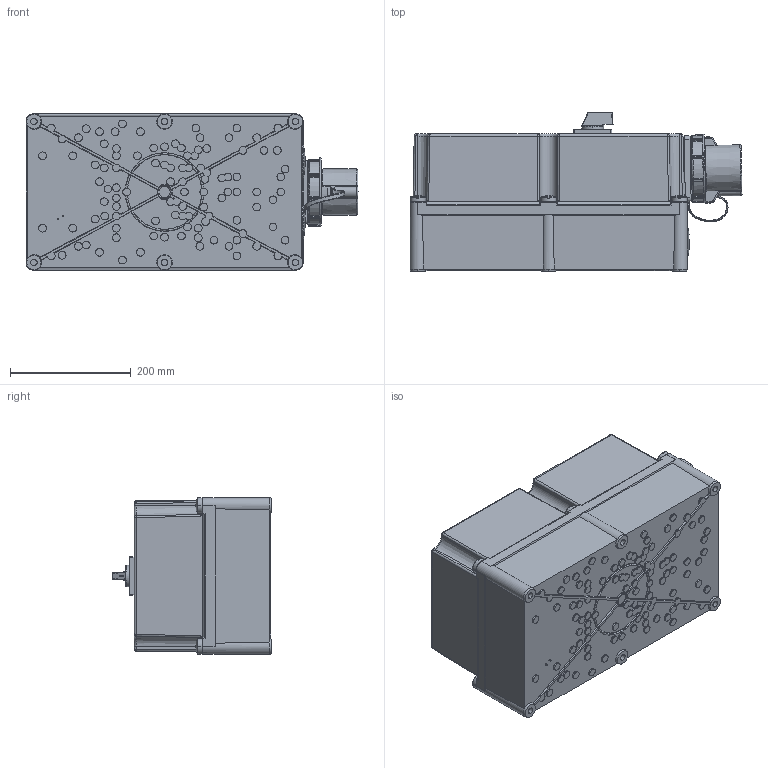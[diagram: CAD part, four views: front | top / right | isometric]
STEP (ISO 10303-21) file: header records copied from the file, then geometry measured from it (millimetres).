
FILE_DESCRIPTION((''),'2;1');
FILE_NAME('1142870_ASM_SW0013','2023-05-24T08:53:17',('kremer'),('MENNEKES'),'CREO PARAMETRIC BY PTC INC, 2019080','CREO PARAMETRIC BY PTC INC, 2019080','');
FILE_SCHEMA(('AUTOMOTIVE_DESIGN { 1 0 10303 214 1 1 1 1 }'));
Products named in the file (1): 1142870_ASM_SW0013
Bounding box: 551.04 x 263.5 x 260 mm (x, y, z)
Volume: 26012720.9 mm3; surface area: 637328.4 mm2
Topology: 1 solids, 1 shells, 2122 faces, 5572 edges, 3600 vertices
Faces by surface type: plane 1131, cylinder 551, extrusion 108, bspline 104, torus 98, cone 92, sphere 38
Entity records: 95956 total; most frequent: CARTESIAN_POINT 28664, ORIENTED_EDGE 11140, DIRECTION 10378, EDGE_CURVE 5570, AXIS2_PLACEMENT_3D 3793, VERTEX_POINT 3600, VECTOR 2792, LINE 2684
